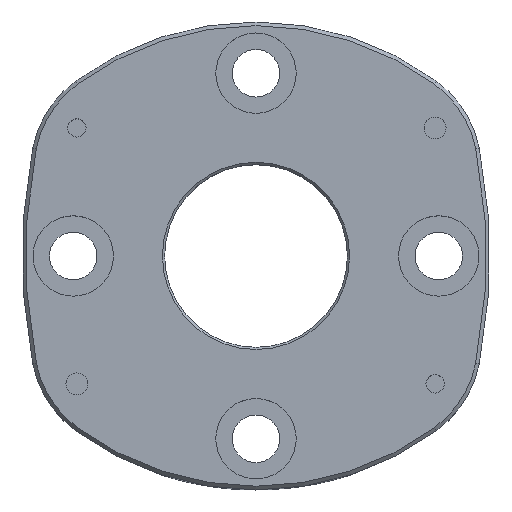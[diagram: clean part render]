
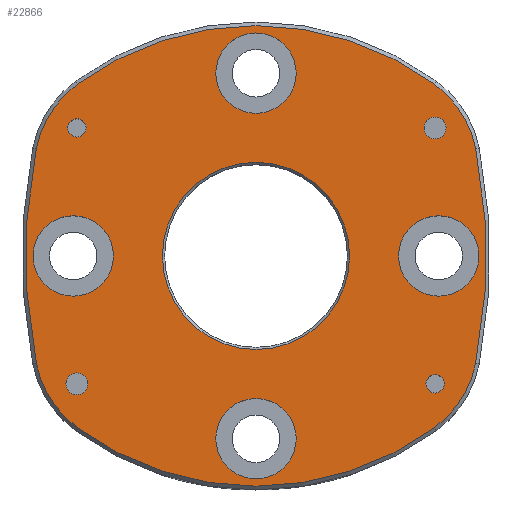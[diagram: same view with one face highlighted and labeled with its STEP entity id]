
A CAD part, top view. The second image highlights one B-rep face of the part: STEP entity #22866.
In plain terms, the highlighted planar face has unit normal (0, 0, 1).
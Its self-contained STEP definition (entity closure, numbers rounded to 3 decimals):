
#22684=CARTESIAN_POINT('',(12.8,0.,0.0));
#22685=VERTEX_POINT('',#22684);
#22686=CARTESIAN_POINT('',(0.0,0.0,0.0));
#22687=DIRECTION('',(0.0,0.0,1.0));
#22688=DIRECTION('',(-1.0,0.0,0.0));
#22689=AXIS2_PLACEMENT_3D('',#22686,#22687,#22688);
#22690=CIRCLE('',#22689,12.8);
#22691=EDGE_CURVE('',#22685,#22685,#22690,.T.);
#22696=CARTESIAN_POINT('',(0.,0.,0.0));
#22697=DIRECTION('',(0.0,0.0,1.0));
#22698=DIRECTION('',(1.0,0.0,0.0));
#22699=AXIS2_PLACEMENT_3D('',#22696,#22697,#22698);
#22700=PLANE('',#22699);
#22701=CARTESIAN_POINT('',(-24.426,23.485,0.0));
#22702=VERTEX_POINT('',#22701);
#22703=CARTESIAN_POINT('',(24.426,23.485,0.0));
#22704=VERTEX_POINT('',#22703);
#22705=CARTESIAN_POINT('',(0.0,-9.725,0.0));
#22706=DIRECTION('',(0.0,0.0,-1.));
#22707=DIRECTION('',(0.593,0.806,0.0));
#22708=AXIS2_PLACEMENT_3D('',#22705,#22706,#22707);
#22709=CIRCLE('',#22708,41.225);
#22710=EDGE_CURVE('',#22702,#22704,#22709,.T.);
#22711=ORIENTED_EDGE('',*,*,#22710,.F.);
#22712=CARTESIAN_POINT('',(-30.054,14.64,0.0));
#22713=VERTEX_POINT('',#22712);
#22714=CARTESIAN_POINT('',(-15.834,11.804,0.0));
#22715=DIRECTION('',(0.0,0.0,-1.0));
#22716=DIRECTION('',(-0.593,0.806,0.0));
#22717=AXIS2_PLACEMENT_3D('',#22714,#22715,#22716);
#22718=CIRCLE('',#22717,14.5);
#22719=EDGE_CURVE('',#22713,#22702,#22718,.T.);
#22720=ORIENTED_EDGE('',*,*,#22719,.F.);
#22721=CARTESIAN_POINT('',(-30.054,-14.64,0.0));
#22722=VERTEX_POINT('',#22721);
#22723=CARTESIAN_POINT('',(43.355,0.0,0.0));
#22724=DIRECTION('',(0.0,0.0,-1.));
#22725=DIRECTION('',(-0.981,0.196,0.0));
#22726=AXIS2_PLACEMENT_3D('',#22723,#22724,#22725);
#22727=CIRCLE('',#22726,74.855);
#22728=EDGE_CURVE('',#22722,#22713,#22727,.T.);
#22729=ORIENTED_EDGE('',*,*,#22728,.F.);
#22730=CARTESIAN_POINT('',(-24.426,-23.485,0.0));
#22731=VERTEX_POINT('',#22730);
#22732=CARTESIAN_POINT('',(-15.834,-11.804,0.0));
#22733=DIRECTION('',(0.0,0.0,-1.));
#22734=DIRECTION('',(-0.981,-0.196,0.0));
#22735=AXIS2_PLACEMENT_3D('',#22732,#22733,#22734);
#22736=CIRCLE('',#22735,14.5);
#22737=EDGE_CURVE('',#22731,#22722,#22736,.T.);
#22738=ORIENTED_EDGE('',*,*,#22737,.F.);
#22739=CARTESIAN_POINT('',(24.426,-23.485,0.0));
#22740=VERTEX_POINT('',#22739);
#22741=CARTESIAN_POINT('',(0.0,9.725,0.0));
#22742=DIRECTION('',(0.0,0.0,-1.));
#22743=DIRECTION('',(-0.593,-0.806,0.0));
#22744=AXIS2_PLACEMENT_3D('',#22741,#22742,#22743);
#22745=CIRCLE('',#22744,41.225);
#22746=EDGE_CURVE('',#22740,#22731,#22745,.T.);
#22747=ORIENTED_EDGE('',*,*,#22746,.F.);
#22748=CARTESIAN_POINT('',(30.054,-14.64,0.0));
#22749=VERTEX_POINT('',#22748);
#22750=CARTESIAN_POINT('',(15.834,-11.804,0.0));
#22751=DIRECTION('',(0.0,0.0,-1.));
#22752=DIRECTION('',(0.593,-0.806,0.0));
#22753=AXIS2_PLACEMENT_3D('',#22750,#22751,#22752);
#22754=CIRCLE('',#22753,14.5);
#22755=EDGE_CURVE('',#22749,#22740,#22754,.T.);
#22756=ORIENTED_EDGE('',*,*,#22755,.F.);
#22757=CARTESIAN_POINT('',(30.054,14.64,0.0));
#22758=VERTEX_POINT('',#22757);
#22759=CARTESIAN_POINT('',(-43.355,0.0,0.0));
#22760=DIRECTION('',(0.0,0.0,-1.));
#22761=DIRECTION('',(0.981,-0.196,0.0));
#22762=AXIS2_PLACEMENT_3D('',#22759,#22760,#22761);
#22763=CIRCLE('',#22762,74.855);
#22764=EDGE_CURVE('',#22758,#22749,#22763,.T.);
#22765=ORIENTED_EDGE('',*,*,#22764,.F.);
#22766=CARTESIAN_POINT('',(15.834,11.804,0.0));
#22767=DIRECTION('',(0.0,0.0,-1.));
#22768=DIRECTION('',(0.981,0.196,0.0));
#22769=AXIS2_PLACEMENT_3D('',#22766,#22767,#22768);
#22770=CIRCLE('',#22769,14.5);
#22771=EDGE_CURVE('',#22704,#22758,#22770,.T.);
#22772=ORIENTED_EDGE('',*,*,#22771,.F.);
#22773=EDGE_LOOP('',(#22711,#22720,#22729,#22738,#22747,#22756,#22765,#22772));
#22774=FACE_OUTER_BOUND('',#22773,.T.);
#22775=CARTESIAN_POINT('',(-23.,-17.5,0.0));
#22776=VERTEX_POINT('',#22775);
#22777=CARTESIAN_POINT('',(-24.5,-17.5,0.0));
#22778=DIRECTION('',(0.0,0.0,-1.0));
#22779=DIRECTION('',(1.0,0.0,0.0));
#22780=AXIS2_PLACEMENT_3D('',#22777,#22778,#22779);
#22781=CIRCLE('',#22780,1.5);
#22782=EDGE_CURVE('',#22776,#22776,#22781,.T.);
#22783=ORIENTED_EDGE('',*,*,#22782,.T.);
#22784=EDGE_LOOP('',(#22783));
#22785=FACE_BOUND('',#22784,.T.);
#22786=CARTESIAN_POINT('',(26.0,17.5,0.0));
#22787=VERTEX_POINT('',#22786);
#22788=CARTESIAN_POINT('',(24.5,17.5,0.0));
#22789=DIRECTION('',(0.0,0.0,-1.0));
#22790=DIRECTION('',(1.0,0.0,0.0));
#22791=AXIS2_PLACEMENT_3D('',#22788,#22789,#22790);
#22792=CIRCLE('',#22791,1.5);
#22793=EDGE_CURVE('',#22787,#22787,#22792,.T.);
#22794=ORIENTED_EDGE('',*,*,#22793,.T.);
#22795=EDGE_LOOP('',(#22794));
#22796=FACE_BOUND('',#22795,.T.);
#22797=CARTESIAN_POINT('',(25.75,-17.5,0.0));
#22798=VERTEX_POINT('',#22797);
#22799=CARTESIAN_POINT('',(24.5,-17.5,0.0));
#22800=DIRECTION('',(0.0,0.0,-1.0));
#22801=DIRECTION('',(1.0,0.0,0.0));
#22802=AXIS2_PLACEMENT_3D('',#22799,#22800,#22801);
#22803=CIRCLE('',#22802,1.25);
#22804=EDGE_CURVE('',#22798,#22798,#22803,.T.);
#22805=ORIENTED_EDGE('',*,*,#22804,.T.);
#22806=EDGE_LOOP('',(#22805));
#22807=FACE_BOUND('',#22806,.T.);
#22808=CARTESIAN_POINT('',(-23.25,17.5,0.0));
#22809=VERTEX_POINT('',#22808);
#22810=CARTESIAN_POINT('',(-24.5,17.5,0.0));
#22811=DIRECTION('',(0.0,0.0,-1.0));
#22812=DIRECTION('',(1.0,0.0,0.0));
#22813=AXIS2_PLACEMENT_3D('',#22810,#22811,#22812);
#22814=CIRCLE('',#22813,1.25);
#22815=EDGE_CURVE('',#22809,#22809,#22814,.T.);
#22816=ORIENTED_EDGE('',*,*,#22815,.T.);
#22817=EDGE_LOOP('',(#22816));
#22818=FACE_BOUND('',#22817,.T.);
#22819=CARTESIAN_POINT('',(-19.5,0.0,0.0));
#22820=VERTEX_POINT('',#22819);
#22821=CARTESIAN_POINT('',(-25.0,0.0,0.0));
#22822=DIRECTION('',(0.0,0.0,-1.0));
#22823=DIRECTION('',(1.0,0.0,0.0));
#22824=AXIS2_PLACEMENT_3D('',#22821,#22822,#22823);
#22825=CIRCLE('',#22824,5.5);
#22826=EDGE_CURVE('',#22820,#22820,#22825,.T.);
#22827=ORIENTED_EDGE('',*,*,#22826,.T.);
#22828=EDGE_LOOP('',(#22827));
#22829=FACE_BOUND('',#22828,.T.);
#22830=CARTESIAN_POINT('',(30.5,0.0,0.0));
#22831=VERTEX_POINT('',#22830);
#22832=CARTESIAN_POINT('',(25.0,0.0,0.0));
#22833=DIRECTION('',(0.0,0.0,-1.0));
#22834=DIRECTION('',(1.0,0.0,0.0));
#22835=AXIS2_PLACEMENT_3D('',#22832,#22833,#22834);
#22836=CIRCLE('',#22835,5.5);
#22837=EDGE_CURVE('',#22831,#22831,#22836,.T.);
#22838=ORIENTED_EDGE('',*,*,#22837,.T.);
#22839=EDGE_LOOP('',(#22838));
#22840=FACE_BOUND('',#22839,.T.);
#22841=CARTESIAN_POINT('',(5.5,-25.0,0.0));
#22842=VERTEX_POINT('',#22841);
#22843=CARTESIAN_POINT('',(0.0,-25.0,0.0));
#22844=DIRECTION('',(0.0,0.0,-1.0));
#22845=DIRECTION('',(1.0,0.0,0.0));
#22846=AXIS2_PLACEMENT_3D('',#22843,#22844,#22845);
#22847=CIRCLE('',#22846,5.5);
#22848=EDGE_CURVE('',#22842,#22842,#22847,.T.);
#22849=ORIENTED_EDGE('',*,*,#22848,.T.);
#22850=EDGE_LOOP('',(#22849));
#22851=FACE_BOUND('',#22850,.T.);
#22852=CARTESIAN_POINT('',(5.5,25.0,0.0));
#22853=VERTEX_POINT('',#22852);
#22854=CARTESIAN_POINT('',(0.0,25.0,0.0));
#22855=DIRECTION('',(0.0,0.0,-1.0));
#22856=DIRECTION('',(1.0,0.0,0.0));
#22857=AXIS2_PLACEMENT_3D('',#22854,#22855,#22856);
#22858=CIRCLE('',#22857,5.5);
#22859=EDGE_CURVE('',#22853,#22853,#22858,.T.);
#22860=ORIENTED_EDGE('',*,*,#22859,.T.);
#22861=EDGE_LOOP('',(#22860));
#22862=FACE_BOUND('',#22861,.T.);
#22863=ORIENTED_EDGE('',*,*,#22691,.F.);
#22864=EDGE_LOOP('',(#22863));
#22865=FACE_BOUND('',#22864,.T.);
#22866=ADVANCED_FACE('',(#22774,#22785,#22796,#22807,#22818,#22829,#22840,#22851,#22862,#22865),#22700,.T.);
